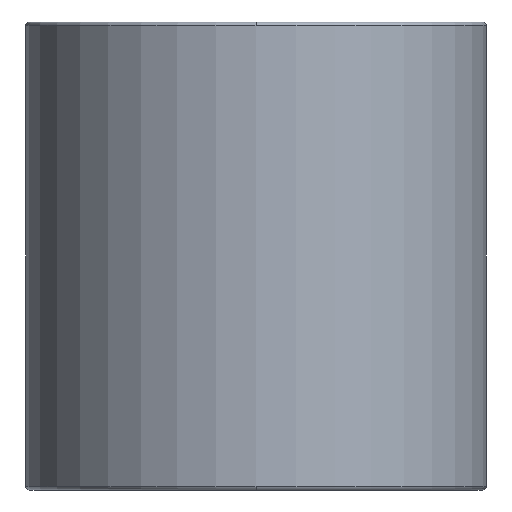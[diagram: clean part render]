
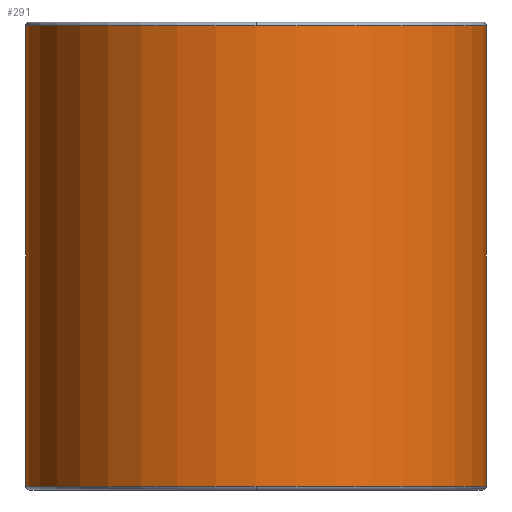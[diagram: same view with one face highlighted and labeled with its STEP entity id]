
A CAD part, front view. The second image highlights one B-rep face of the part: STEP entity #291.
In plain terms, the highlighted cylindrical face has radius 23.625 mm (diameter 47.25 mm), a partial arc.
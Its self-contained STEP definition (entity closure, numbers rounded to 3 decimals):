
#196=CARTESIAN_POINT('',(0.0,-23.625,30.1));
#197=VERTEX_POINT('',#196);
#223=CARTESIAN_POINT('',(-23.625,0.,30.1));
#224=VERTEX_POINT('',#223);
#232=CARTESIAN_POINT('',(0.0,0.,30.1));
#233=DIRECTION('',(0.0,0.0,1.0));
#234=DIRECTION('',(1.0,0.0,0.0));
#235=AXIS2_PLACEMENT_3D('',#232,#233,#234);
#236=CIRCLE('',#235,23.625);
#237=EDGE_CURVE('',#224,#197,#236,.T.);
#242=CARTESIAN_POINT('',(0.0,0.,6.5));
#243=DIRECTION('',(0.0,0.,1.0));
#244=DIRECTION('',(1.0,0.0,0.0));
#245=AXIS2_PLACEMENT_3D('',#242,#243,#244);
#246=CYLINDRICAL_SURFACE('',#245,23.625);
#247=CARTESIAN_POINT('',(23.625,0.,30.1));
#248=VERTEX_POINT('',#247);
#249=CARTESIAN_POINT('',(23.625,0.,-17.1));
#250=VERTEX_POINT('',#249);
#251=CARTESIAN_POINT('',(23.625,0.,30.1));
#252=DIRECTION('',(0.0,0.0,-1.0));
#253=VECTOR('',#252,47.2);
#254=LINE('',#251,#253);
#255=EDGE_CURVE('',#248,#250,#254,.T.);
#256=ORIENTED_EDGE('',*,*,#255,.F.);
#257=CARTESIAN_POINT('',(0.0,0.,30.1));
#258=DIRECTION('',(0.0,0.0,1.0));
#259=DIRECTION('',(1.0,0.0,0.0));
#260=AXIS2_PLACEMENT_3D('',#257,#258,#259);
#261=CIRCLE('',#260,23.625);
#262=EDGE_CURVE('',#197,#248,#261,.T.);
#263=ORIENTED_EDGE('',*,*,#262,.F.);
#264=ORIENTED_EDGE('',*,*,#237,.F.);
#265=CARTESIAN_POINT('',(-23.625,0.,-17.1));
#266=VERTEX_POINT('',#265);
#267=CARTESIAN_POINT('',(-23.625,0.,30.1));
#268=DIRECTION('',(0.0,0.0,-1.0));
#269=VECTOR('',#268,47.2);
#270=LINE('',#267,#269);
#271=EDGE_CURVE('',#224,#266,#270,.T.);
#272=ORIENTED_EDGE('',*,*,#271,.T.);
#273=CARTESIAN_POINT('',(0.0,-23.625,-17.1));
#274=VERTEX_POINT('',#273);
#275=CARTESIAN_POINT('',(0.0,0.,-17.1));
#276=DIRECTION('',(0.0,0.0,1.0));
#277=DIRECTION('',(1.0,0.0,0.0));
#278=AXIS2_PLACEMENT_3D('',#275,#276,#277);
#279=CIRCLE('',#278,23.625);
#280=EDGE_CURVE('',#266,#274,#279,.T.);
#281=ORIENTED_EDGE('',*,*,#280,.T.);
#282=CARTESIAN_POINT('',(0.0,0.,-17.1));
#283=DIRECTION('',(0.0,0.0,1.0));
#284=DIRECTION('',(1.0,0.0,0.0));
#285=AXIS2_PLACEMENT_3D('',#282,#283,#284);
#286=CIRCLE('',#285,23.625);
#287=EDGE_CURVE('',#274,#250,#286,.T.);
#288=ORIENTED_EDGE('',*,*,#287,.T.);
#289=EDGE_LOOP('',(#256,#263,#264,#272,#281,#288));
#290=FACE_OUTER_BOUND('',#289,.T.);
#291=ADVANCED_FACE('',(#290),#246,.T.);
